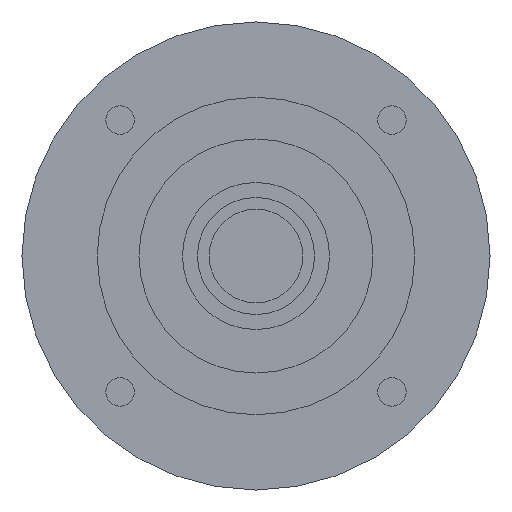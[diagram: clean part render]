
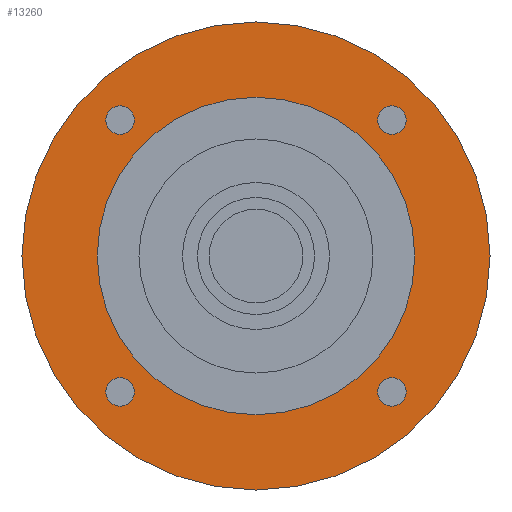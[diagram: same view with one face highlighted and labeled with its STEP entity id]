
A CAD part, left-side view. The second image highlights one B-rep face of the part: STEP entity #13260.
In plain terms, the highlighted planar face has unit normal (-1, 0, 0) as drawn and (0, 0, -1) by its records, which use the part's own axes.
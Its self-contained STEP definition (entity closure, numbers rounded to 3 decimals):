
#12100=CARTESIAN_POINT('',(-36.409,40.659,-84.701));
#12110=VERTEX_POINT('',#12100);
#12140=CARTESIAN_POINT('',(-40.659,40.659,-84.701));
#12150=DIRECTION('',(0.,0.,-1.));
#12160=DIRECTION('',(-1.,0.,0.));
#12170=AXIS2_PLACEMENT_3D('',#12140,#12150,#12160);
#12180=CIRCLE('',#12170,4.25);
#12190=CARTESIAN_POINT('',(-44.909,40.659,-84.701));
#12200=VERTEX_POINT('',#12190);
#12210=EDGE_CURVE('',#12200,#12110,#12180,.T.);
#12330=CARTESIAN_POINT('',(0.,0.,
-84.701));
#12340=DIRECTION('',(0.,0.,-1.));
#12350=DIRECTION('',(1.,0.,0.));
#12360=AXIS2_PLACEMENT_3D('',#12330,#12340,#12350);
#12370=PLANE('',#12360);
#12380=CARTESIAN_POINT('',(40.659,40.659,-84.701));
#12390=DIRECTION('',(0.,0.,-1.));
#12400=DIRECTION('',(0.,1.,0.));
#12410=AXIS2_PLACEMENT_3D('',#12380,#12390,#12400);
#12420=CIRCLE('',#12410,4.25);
#12430=CARTESIAN_POINT('',(40.659,44.909,-84.701));
#12440=VERTEX_POINT('',#12430);
#12450=CARTESIAN_POINT('',(40.659,36.409,-84.701));
#12460=VERTEX_POINT('',#12450);
#12470=EDGE_CURVE('',#12440,#12460,#12420,.T.);
#12480=ORIENTED_EDGE('',*,*,#12470,.F.);
#12490=EDGE_CURVE('',#12460,#12440,#12420,.T.);
#12500=ORIENTED_EDGE('',*,*,#12490,.F.);
#12510=EDGE_LOOP('',(#12500,#12480));
#12520=FACE_BOUND('',#12510,.T.);
#12530=ORIENTED_EDGE('',*,*,#12210,.F.);
#12540=EDGE_CURVE('',#12110,#12200,#12180,.T.);
#12550=ORIENTED_EDGE('',*,*,#12540,.F.);
#12560=EDGE_LOOP('',(#12550,#12530));
#12570=FACE_BOUND('',#12560,.T.);
#12580=CARTESIAN_POINT('',(-40.659,-40.659,-84.701))
;
#12590=DIRECTION('',(0.,0.,-1.));
#12600=DIRECTION('',(0.,-1.,0.));
#12610=AXIS2_PLACEMENT_3D('',#12580,#12590,#12600);
#12620=CIRCLE('',#12610,4.25);
#12630=CARTESIAN_POINT('',(-40.659,-44.909,-84.701))
;
#12640=VERTEX_POINT('',#12630);
#12650=CARTESIAN_POINT('',(-40.659,-36.409,-84.701))
;
#12660=VERTEX_POINT('',#12650);
#12670=EDGE_CURVE('',#12640,#12660,#12620,.T.);
#12680=ORIENTED_EDGE('',*,*,#12670,.F.);
#12690=EDGE_CURVE('',#12660,#12640,#12620,.T.);
#12700=ORIENTED_EDGE('',*,*,#12690,.F.);
#12710=EDGE_LOOP('',(#12700,#12680));
#12720=FACE_BOUND('',#12710,.T.);
#12730=CARTESIAN_POINT('',(0.,0.,
-84.701));
#12740=DIRECTION('',(0.,0.,1.));
#12750=DIRECTION('',(0.,1.,0.));
#12760=AXIS2_PLACEMENT_3D('',#12730,#12740,#12750);
#12770=CIRCLE('',#12760,47.5);
#12780=CARTESIAN_POINT('',(-47.5,0.,-84.701));
#12790=VERTEX_POINT('',#12780);
#12800=CARTESIAN_POINT('',(47.5,0.,-84.701));
#12810=VERTEX_POINT('',#12800);
#12820=EDGE_CURVE('',#12790,#12810,#12770,.T.);
#12830=ORIENTED_EDGE('',*,*,#12820,.T.);
#12840=CARTESIAN_POINT('',(0.,47.5,-84.701));
#12850=VERTEX_POINT('',#12840);
#12860=EDGE_CURVE('',#12850,#12790,#12770,.T.);
#12870=ORIENTED_EDGE('',*,*,#12860,.T.);
#12880=EDGE_CURVE('',#12810,#12850,#12770,.T.);
#12890=ORIENTED_EDGE('',*,*,#12880,.T.);
#12900=EDGE_LOOP('',(#12890,#12870,#12830));
#12910=FACE_BOUND('',#12900,.T.);
#12920=CARTESIAN_POINT('',(40.659,-40.659,-84.701));
#12930=DIRECTION('',(0.,0.,-1.));
#12940=DIRECTION('',(1.,0.,0.));
#12950=AXIS2_PLACEMENT_3D('',#12920,#12930,#12940);
#12960=CIRCLE('',#12950,4.25);
#12970=CARTESIAN_POINT('',(44.909,-40.659,-84.701));
#12980=VERTEX_POINT('',#12970);
#12990=CARTESIAN_POINT('',(36.409,-40.659,-84.701));
#13000=VERTEX_POINT('',#12990);
#13010=EDGE_CURVE('',#12980,#13000,#12960,.T.);
#13020=ORIENTED_EDGE('',*,*,#13010,.F.);
#13030=EDGE_CURVE('',#13000,#12980,#12960,.T.);
#13040=ORIENTED_EDGE('',*,*,#13030,.F.);
#13050=EDGE_LOOP('',(#13040,#13020));
#13060=FACE_BOUND('',#13050,.T.);
#13070=CARTESIAN_POINT('',(0.,0.,
-84.701));
#13080=DIRECTION('',(0.,0.,-1.));
#13090=DIRECTION('',(0.,-1.,0.));
#13100=AXIS2_PLACEMENT_3D('',#13070,#13080,#13090);
#13110=CIRCLE('',#13100,70.);
#13120=CARTESIAN_POINT('',(-70.,0.,-84.701));
#13130=VERTEX_POINT('',#13120);
#13140=CARTESIAN_POINT('',(70.,0.,-84.701));
#13150=VERTEX_POINT('',#13140);
#13160=EDGE_CURVE('',#13130,#13150,#13110,.T.);
#13170=ORIENTED_EDGE('',*,*,#13160,.T.);
#13180=CARTESIAN_POINT('',(0.,-70.,-84.701));
#13190=VERTEX_POINT('',#13180);
#13200=EDGE_CURVE('',#13190,#13130,#13110,.T.);
#13210=ORIENTED_EDGE('',*,*,#13200,.T.);
#13220=EDGE_CURVE('',#13150,#13190,#13110,.T.);
#13230=ORIENTED_EDGE('',*,*,#13220,.T.);
#13240=EDGE_LOOP('',(#13230,#13210,#13170));
#13250=FACE_OUTER_BOUND('',#13240,.T.);
#13260=ADVANCED_FACE('',(#12520,#12570,#12720,#12910,#13060,#13250),
#12370,.T.);
